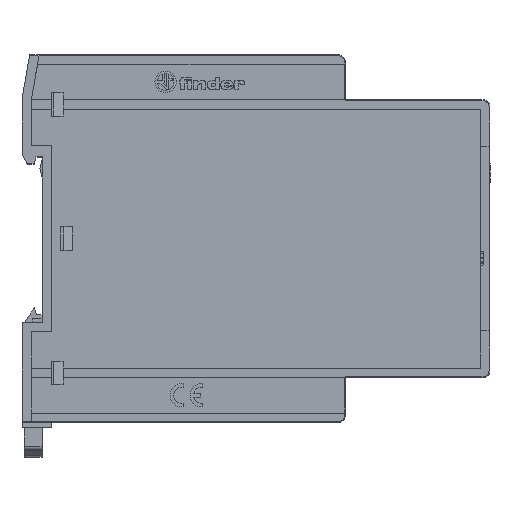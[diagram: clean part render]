
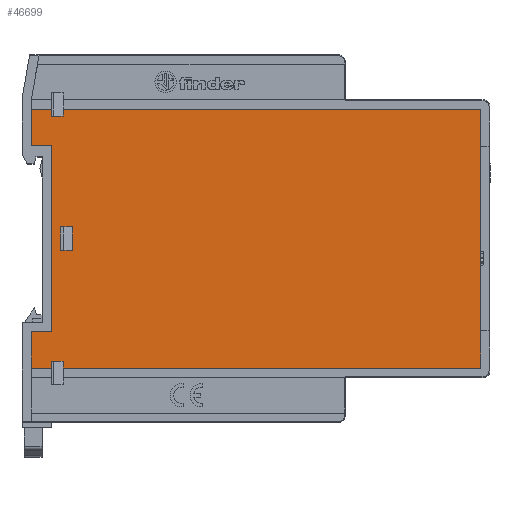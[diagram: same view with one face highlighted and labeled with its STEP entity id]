
A CAD part, top view. The second image highlights one B-rep face of the part: STEP entity #46699.
In plain terms, the highlighted planar face has unit normal (0, 0, 1).
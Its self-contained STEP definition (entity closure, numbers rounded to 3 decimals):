
#2121=ORIENTED_EDGE('',*,*,#12894,.F.);
#2122=ORIENTED_EDGE('',*,*,#12895,.T.);
#2123=ORIENTED_EDGE('',*,*,#12896,.F.);
#2124=ORIENTED_EDGE('',*,*,#12897,.T.);
#2125=ORIENTED_EDGE('',*,*,#12898,.F.);
#2126=ORIENTED_EDGE('',*,*,#12899,.T.);
#2127=ORIENTED_EDGE('',*,*,#12900,.F.);
#2128=ORIENTED_EDGE('',*,*,#12901,.T.);
#2129=ORIENTED_EDGE('',*,*,#12902,.F.);
#2130=ORIENTED_EDGE('',*,*,#12903,.T.);
#2131=ORIENTED_EDGE('',*,*,#12904,.F.);
#2132=ORIENTED_EDGE('',*,*,#12905,.T.);
#2133=ORIENTED_EDGE('',*,*,#12891,.T.);
#2134=ORIENTED_EDGE('',*,*,#12906,.T.);
#2135=ORIENTED_EDGE('',*,*,#12907,.F.);
#2136=ORIENTED_EDGE('',*,*,#12908,.F.);
#2137=ORIENTED_EDGE('',*,*,#12909,.T.);
#2138=ORIENTED_EDGE('',*,*,#12910,.F.);
#2139=ORIENTED_EDGE('',*,*,#12911,.F.);
#2140=ORIENTED_EDGE('',*,*,#12912,.F.);
#12891=EDGE_CURVE('',#20697,#20696,#26952,.T.);
#12894=EDGE_CURVE('',#20699,#20700,#26955,.T.);
#12895=EDGE_CURVE('',#20699,#20701,#26956,.T.);
#12896=EDGE_CURVE('',#20702,#20701,#26957,.T.);
#12897=EDGE_CURVE('',#20702,#20703,#26958,.T.);
#12898=EDGE_CURVE('',#20704,#20703,#26959,.T.);
#12899=EDGE_CURVE('',#20704,#20705,#26960,.T.);
#12900=EDGE_CURVE('',#20706,#20705,#26961,.T.);
#12901=EDGE_CURVE('',#20706,#20707,#26962,.T.);
#12902=EDGE_CURVE('',#20708,#20707,#26963,.T.);
#12903=EDGE_CURVE('',#20708,#20709,#26964,.T.);
#12904=EDGE_CURVE('',#20710,#20709,#26965,.T.);
#12905=EDGE_CURVE('',#20710,#20697,#26966,.T.);
#12906=EDGE_CURVE('',#20696,#20711,#26967,.T.);
#12907=EDGE_CURVE('',#20712,#20711,#26968,.T.);
#12908=EDGE_CURVE('',#20700,#20712,#26969,.T.);
#12909=EDGE_CURVE('',#20713,#20714,#26970,.T.);
#12910=EDGE_CURVE('',#20715,#20714,#26971,.T.);
#12911=EDGE_CURVE('',#20716,#20715,#26972,.T.);
#12912=EDGE_CURVE('',#20713,#20716,#26973,.T.);
#20696=VERTEX_POINT('',#65934);
#20697=VERTEX_POINT('',#65936);
#20699=VERTEX_POINT('',#65942);
#20700=VERTEX_POINT('',#65943);
#20701=VERTEX_POINT('',#65945);
#20702=VERTEX_POINT('',#65947);
#20703=VERTEX_POINT('',#65949);
#20704=VERTEX_POINT('',#65951);
#20705=VERTEX_POINT('',#65953);
#20706=VERTEX_POINT('',#65955);
#20707=VERTEX_POINT('',#65957);
#20708=VERTEX_POINT('',#65959);
#20709=VERTEX_POINT('',#65961);
#20710=VERTEX_POINT('',#65963);
#20711=VERTEX_POINT('',#65966);
#20712=VERTEX_POINT('',#65968);
#20713=VERTEX_POINT('',#65971);
#20714=VERTEX_POINT('',#65972);
#20715=VERTEX_POINT('',#65974);
#20716=VERTEX_POINT('',#65976);
#26952=LINE('',#65935,#34075);
#26955=LINE('',#65941,#34078);
#26956=LINE('',#65944,#34079);
#26957=LINE('',#65946,#34080);
#26958=LINE('',#65948,#34081);
#26959=LINE('',#65950,#34082);
#26960=LINE('',#65952,#34083);
#26961=LINE('',#65954,#34084);
#26962=LINE('',#65956,#34085);
#26963=LINE('',#65958,#34086);
#26964=LINE('',#65960,#34087);
#26965=LINE('',#65962,#34088);
#26966=LINE('',#65964,#34089);
#26967=LINE('',#65965,#34090);
#26968=LINE('',#65967,#34091);
#26969=LINE('',#65969,#34092);
#26970=LINE('',#65970,#34093);
#26971=LINE('',#65973,#34094);
#26972=LINE('',#65975,#34095);
#26973=LINE('',#65977,#34096);
#34075=VECTOR('',#53341,1000.);
#34078=VECTOR('',#53346,1000.);
#34079=VECTOR('',#53347,1000.);
#34080=VECTOR('',#53348,1000.);
#34081=VECTOR('',#53349,1000.);
#34082=VECTOR('',#53350,1000.);
#34083=VECTOR('',#53351,1000.);
#34084=VECTOR('',#53352,1000.);
#34085=VECTOR('',#53353,1000.);
#34086=VECTOR('',#53354,1000.);
#34087=VECTOR('',#53355,1000.);
#34088=VECTOR('',#53356,1000.);
#34089=VECTOR('',#53357,1000.);
#34090=VECTOR('',#53358,1000.);
#34091=VECTOR('',#53359,1000.);
#34092=VECTOR('',#53360,1000.);
#34093=VECTOR('',#53361,1000.);
#34094=VECTOR('',#53362,1000.);
#34095=VECTOR('',#53363,1000.);
#34096=VECTOR('',#53364,1000.);
#40870=EDGE_LOOP('',(#2121,#2122,#2123,#2124,#2125,#2126,#2127,#2128,#2129,
#2130,#2131,#2132,#2133,#2134,#2135,#2136));
#40871=EDGE_LOOP('',(#2137,#2138,#2139,#2140));
#42936=FACE_BOUND('',#40870,.T.);
#42937=FACE_BOUND('',#40871,.T.);
#44970=PLANE('',#49938);
#46699=ADVANCED_FACE('',(#42936,#42937),#44970,.T.);
#49938=AXIS2_PLACEMENT_3D('',#65940,#53344,#53345);
#53341=DIRECTION('',(0.,1.,0.));
#53344=DIRECTION('',(0.,0.,1.));
#53345=DIRECTION('',(1.,0.,0.));
#53346=DIRECTION('',(0.,-1.,0.));
#53347=DIRECTION('',(-1.,0.,0.));
#53348=DIRECTION('',(0.,1.,0.));
#53349=DIRECTION('',(1.,0.,0.));
#53350=DIRECTION('',(0.,1.,0.));
#53351=DIRECTION('',(-1.,0.,0.));
#53352=DIRECTION('',(0.,1.,0.));
#53353=DIRECTION('',(1.,0.,0.));
#53354=DIRECTION('',(0.,-1.,0.));
#53355=DIRECTION('',(1.,0.,0.));
#53356=DIRECTION('',(0.,1.,0.));
#53357=DIRECTION('',(1.,0.,0.));
#53358=DIRECTION('',(-1.,0.,0.));
#53359=DIRECTION('',(0.,1.,0.));
#53360=DIRECTION('',(1.,0.,0.));
#53361=DIRECTION('',(1.,0.,0.));
#53362=DIRECTION('',(0.,1.,0.));
#53363=DIRECTION('',(1.,0.,0.));
#53364=DIRECTION('',(0.,-1.,0.));
#65934=CARTESIAN_POINT('',(48.,27.75,22.5));
#65935=CARTESIAN_POINT('',(48.,-27.75,22.5));
#65936=CARTESIAN_POINT('',(48.,-27.75,22.5));
#65940=CARTESIAN_POINT('',(-50.188,28.787,22.5));
#65941=CARTESIAN_POINT('',(-44.,27.75,22.5));
#65942=CARTESIAN_POINT('',(-44.,27.75,22.5));
#65943=CARTESIAN_POINT('',(-44.,26.25,22.5));
#65944=CARTESIAN_POINT('',(-43.243,27.75,22.5));
#65945=CARTESIAN_POINT('',(-48.3,27.75,22.5));
#65946=CARTESIAN_POINT('',(-48.3,20.,22.5));
#65947=CARTESIAN_POINT('',(-48.3,20.,22.5));
#65948=CARTESIAN_POINT('',(-48.3,20.,22.5));
#65949=CARTESIAN_POINT('',(-44.,20.,22.5));
#65950=CARTESIAN_POINT('',(-44.,-20.,22.5));
#65951=CARTESIAN_POINT('',(-44.,-20.,22.5));
#65952=CARTESIAN_POINT('',(-44.,-20.,22.5));
#65953=CARTESIAN_POINT('',(-48.3,-20.,22.5));
#65954=CARTESIAN_POINT('',(-48.3,-27.75,22.5));
#65955=CARTESIAN_POINT('',(-48.3,-27.75,22.5));
#65956=CARTESIAN_POINT('',(-48.3,-27.75,22.5));
#65957=CARTESIAN_POINT('',(-44.,-27.75,22.5));
#65958=CARTESIAN_POINT('',(-44.,-26.25,22.5));
#65959=CARTESIAN_POINT('',(-44.,-26.25,22.5));
#65960=CARTESIAN_POINT('',(-44.,-26.25,22.5));
#65961=CARTESIAN_POINT('',(-41.5,-26.25,22.5));
#65962=CARTESIAN_POINT('',(-41.5,-27.75,22.5));
#65963=CARTESIAN_POINT('',(-41.5,-27.75,22.5));
#65964=CARTESIAN_POINT('',(-41.5,-27.75,22.5));
#65965=CARTESIAN_POINT('',(48.,27.75,22.5));
#65966=CARTESIAN_POINT('',(-41.5,27.75,22.5));
#65967=CARTESIAN_POINT('',(-41.5,26.25,22.5));
#65968=CARTESIAN_POINT('',(-41.5,26.25,22.5));
#65969=CARTESIAN_POINT('',(-44.,26.25,22.5));
#65970=CARTESIAN_POINT('',(-42.,2.5,22.5));
#65971=CARTESIAN_POINT('',(-42.,2.5,22.5));
#65972=CARTESIAN_POINT('',(-39.5,2.5,22.5));
#65973=CARTESIAN_POINT('',(-39.5,-2.5,22.5));
#65974=CARTESIAN_POINT('',(-39.5,-2.5,22.5));
#65975=CARTESIAN_POINT('',(-42.,-2.5,22.5));
#65976=CARTESIAN_POINT('',(-42.,-2.5,22.5));
#65977=CARTESIAN_POINT('',(-42.,2.5,22.5));
